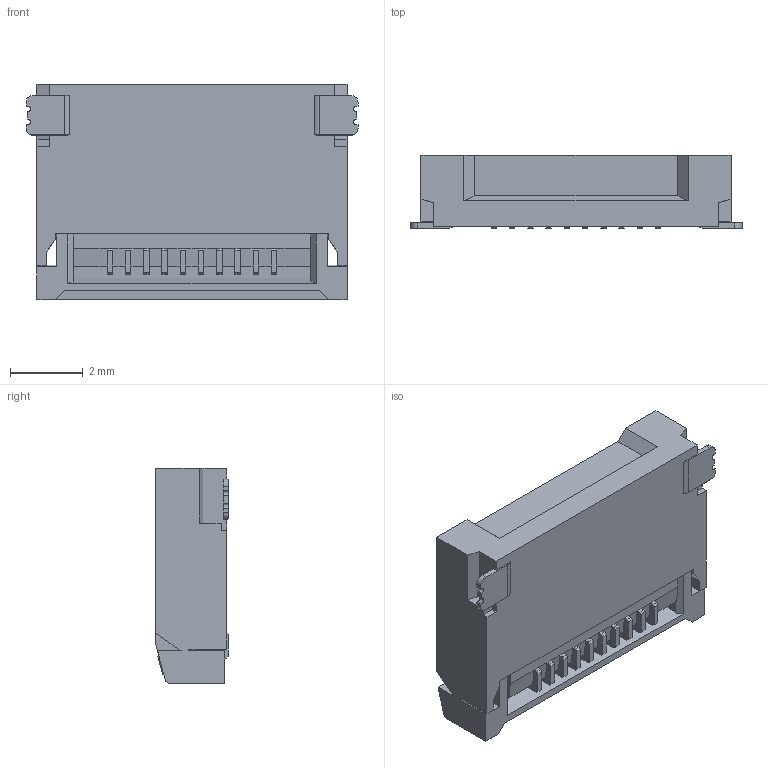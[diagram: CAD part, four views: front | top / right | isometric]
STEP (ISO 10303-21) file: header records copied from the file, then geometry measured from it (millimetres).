
FILE_DESCRIPTION (( 'STEP AP203' ), '1' );
FILE_NAME ('20477-010E-xxC ASS''Y ACT-CLOSE STEP R0 ALL.STEP', '2013-05-10T07:06:19', ( 'kaihatsu-3dcad-3' ), ( '' ), 'SwSTEP 2.0', 'SolidWorks 2011', '' );
FILE_SCHEMA (( 'CONFIG_CONTROL_DESIGN' ));
Length unit declared in the file: millimetre
Products named in the file (1): 20477-010E-xxC ASS''Y ACT-CLOSE STEP R0 ALL
Bounding box: 9.1 x 2 x 5.9 mm (x, y, z)
Volume: 87.1 mm3; surface area: 180.9 mm2
Topology: 1 solids, 1 shells, 202 faces, 585 edges, 382 vertices
Faces by surface type: plane 182, cylinder 18, cone 2
Entity records: 6600 total; most frequent: CARTESIAN_POINT 1194, ORIENTED_EDGE 1170, DIRECTION 1019, EDGE_CURVE 585, VECTOR 541, LINE 541, VERTEX_POINT 382, AXIS2_PLACEMENT_3D 239
